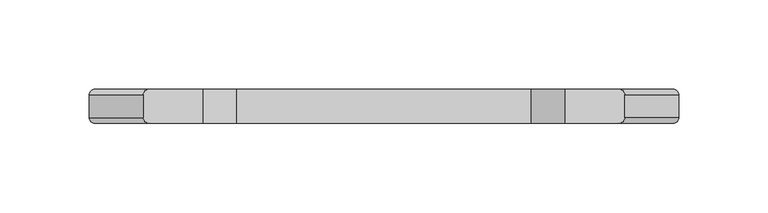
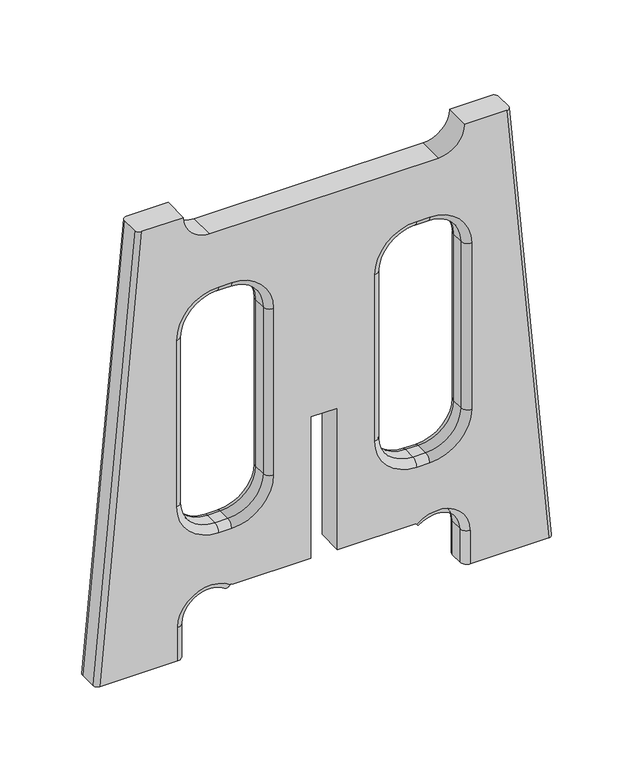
"""IFC4 building model written with IfcOpenShell, lengths in millimetres: furniture geometry, SSL-Childcraft_Outdoor-Stool : 2161356."""

from ifc_helpers import new_model, si_unit, point, frame, origin, place, context, project, spatial, polyline, circle_curve, ellipse_curve, trimmed, source, transform, mapped, element, save
from ifc_brep_helpers import plane_surface, cylinder_surface, revolved_surface, extruded_surface, spline_surface, advanced_brep


def furniture_1be7e667(model_context):
    return source(origin(), model_context, "Body", "AdvancedBrep", [
        advanced_brep(
        [(-101.5873, 4.7625, 117.475), (-76.2, 4.7625, 92.0877), (-76.2, 9.525, 87.3252), (-106.3498, 9.525, 117.475), (-101.5873, -4.7625, 117.475), (-76.2, -4.7625, 92.0877), (-106.3498, -9.525, 117.475), (-76.2, -9.525, 87.3252), (-106.3498, 9.525, 244.4623), (-101.5873, 4.7625, 244.4623), (-101.5873, -4.7625, 244.4623), (-106.3498, -9.525, 244.4623), (-76.1873, 9.525, 274.6248), (-76.1873, 4.7625, 269.8623), (-76.1873, -4.7625, 269.8623), (-76.1873, -9.525, 274.6248), (-66.675, 9.525, 274.6248), (-66.675, 4.7625, 269.8623), (-66.675, -4.7625, 269.8623), (-66.675, -9.525, 274.6248), (-36.5252, 9.525, 244.475), (-41.2877, 4.7625, 244.475), (-41.2877, -4.7625, 244.475), (-36.5252, -9.525, 244.475), (-36.5252, 9.525, 117.475), (-41.2877, 4.7625, 117.475), (-41.2877, -4.7625, 117.475), (-36.5252, -9.525, 117.475), (-66.675, 9.525, 87.3252), (-66.675, 4.7625, 92.0877), (-66.675, -4.7625, 92.0877), (-66.675, -9.525, 87.3252), (100.79355, -4.7625, 0.0), (105.55605, -9.525, 0.0), (105.55605, -9.525, 25.4), (100.79355, -4.7625, 25.4), (100.79355, 4.7625, 0.0), (100.79355, 4.7625, 25.4), (105.55605, 9.525, 0.0), (105.55605, 9.525, 25.4), (66.675, -9.525, 87.3252), (66.675, -4.7625, 92.0877), (41.2877, -4.7625, 117.475), (36.5252, -9.525, 117.475), (41.2877, 4.7625, 117.475), (66.675, 4.7625, 92.0877), (66.675, 9.525, 87.3252), (36.5252, 9.525, 117.475), (41.2877, -4.7625, 244.475), (36.5252, -9.525, 244.475), (36.5252, 9.525, 244.475), (41.2877, 4.7625, 244.475), (66.675, -4.7625, 269.8623), (66.675, -9.525, 274.6248), (66.675, 9.525, 274.6248), (66.675, 4.7625, 269.8623), (76.1873, -4.7625, 269.8623), (76.1873, -9.525, 274.6248), (76.1873, 9.525, 274.6248), (76.1873, 4.7625, 269.8623), (101.5873, -4.7625, 244.4623), (106.3498, -9.525, 244.4623), (106.3498, 9.525, 244.4623), (101.5873, 4.7625, 244.4623), (101.5873, -4.7625, 117.475), (106.3498, -9.525, 117.475), (106.3498, 9.525, 117.475), (101.5873, 4.7625, 117.475), (76.2, -4.7625, 92.0877), (76.2, -9.525, 87.3252), (76.2, 9.525, 87.3252), (76.2, 4.7625, 92.0877), (-67.2065722, -9.525, 45.24375), (-67.6759166, -9.525, 44.603629), (-70.4994928, -4.7498, 40.7526613), (-70.4994928, 4.7498, 40.7526613), (-67.6759166, 9.525, 44.603629), (-67.2065722, 9.525, 45.24375), (-105.56875, -9.525, 25.4), (-100.79355, -4.7498, 25.4), (-100.79355, 4.7498, 25.4), (-105.56875, 9.525, 25.4), (-105.56875, -9.525, 0.0), (-100.79355, -4.7498, 0.0), (-100.79355, 4.7498, 0.0), (-105.56875, 9.525, 0.0), (-131.7625, 9.525, 336.55), (-134.9375, 6.35, 336.55), (-134.9375, -6.35, 336.55), (-131.7625, -9.525, 336.55), (-101.6, -9.525, 336.55), (-101.6, 9.525, 336.55), (-161.925, -9.525, 0.0), (-165.1, -6.35, 0.0), (-165.1, 6.3524937, 0.0), (-161.9274937, 9.525, 0.0), (-82.55, 9.525, 317.5), (82.55, 9.525, 317.5), (101.6, 9.525, 336.55), (131.7625, 9.525, 336.55), (161.925, 9.525, 0.0), (66.692192, 9.525, 43.8256516), (66.1817504, 9.525, 44.45), (9.525, 9.525, 44.45), (9.525, 9.525, 152.4), (-9.525, 9.525, 152.4), (-9.525, 9.525, 44.45), (-66.1817504, 9.525, 44.45), (-66.1817504, -9.525, 44.45), (-9.525, -9.525, 44.45), (-9.525, -9.525, 152.4), (9.525, -9.525, 152.4), (9.525, -9.525, 44.45), (66.1817504, -9.525, 44.45), (66.692192, -9.525, 43.8256516), (161.9274937, -9.525, 0.0), (131.7625, -9.525, 336.55), (101.6, -9.525, 336.55), (82.55, -9.525, 317.5), (-82.55, -9.525, 317.5), (165.1, 6.35, 0.0), (165.1, -6.3524937, 0.0), (134.9375, -6.35, 336.55), (134.9375, 6.35, 336.55), (69.7066113, 4.7625, 40.1385548), (69.7066113, -4.7625, 40.1385548)],
        [
            (0, 1, circle_curve(frame((-76.2, 4.7625, 117.475), z_axis=(0.0, -1.0, 0.0), x_axis=(0.0, 0.0, -1.0)), 25.3873)),
            (1, 2, circle_curve(frame((-76.2, 4.7625, 87.3252), z_axis=(-1.0, 0.0, 0.0), x_axis=(0.0, 0.0, -1.0)), 4.7625)),
            (2, 3, circle_curve(frame((-76.2, 9.525, 117.475), z_axis=(0.0, 1.0, 0.0), x_axis=(0.0, 0.0, -1.0)), 30.1498)),
            (3, 0, circle_curve(frame((-106.3498, 4.7625, 117.475), z_axis=(0.0, 0.0, -1.0), x_axis=(-1.0, 0.0, 0.0)), 4.7625)),
            (0, 4),
            (4, 5, circle_curve(frame((-76.2, -4.7625, 117.475), z_axis=(0.0, -1.0, 0.0), x_axis=(0.0, 0.0, -1.0)), 25.3873)),
            (5, 1),
            (4, 6, circle_curve(frame((-106.3498, -4.7625, 117.475), z_axis=(0.0, 0.0, -1.0), x_axis=(-1.0, 0.0, 0.0)), 4.7625)),
            (6, 7, circle_curve(frame((-76.2, -9.525, 117.475), z_axis=(0.0, -1.0, 0.0), x_axis=(0.0, 0.0, -1.0)), 30.1498)),
            (7, 5, circle_curve(frame((-76.2, -4.7625, 87.3252), z_axis=(-1.0, 0.0, 0.0), x_axis=(0.0, 0.0, -1.0)), 4.7625)),
            (3, 8),
            (8, 9, circle_curve(frame((-106.3498, 4.7625, 244.4623), z_axis=(0.0, 0.0, -1.0), x_axis=(-1.0, 0.0, 0.0)), 4.7625)),
            (9, 0),
            (9, 10),
            (10, 4),
            (10, 11, circle_curve(frame((-106.3498, -4.7625, 244.4623), z_axis=(0.0, 0.0, -1.0), x_axis=(-1.0, 0.0, 0.0)), 4.7625)),
            (11, 6),
            (8, 12, circle_curve(frame((-76.1873, 9.525, 244.4623), z_axis=(0.0, 1.0, 0.0), x_axis=(-1.0, 0.0, 0.0)), 30.1625)),
            (12, 13, circle_curve(frame((-76.1873, 4.7625, 274.6248), z_axis=(-1.0, 0.0, 0.0), x_axis=(0.0, 0.0, 1.0)), 4.7625)),
            (13, 9, circle_curve(frame((-76.1873, 4.7625, 244.4623), z_axis=(0.0, -1.0, 0.0), x_axis=(-1.0, 0.0, 0.0)), 25.4)),
            (13, 14),
            (14, 10, circle_curve(frame((-76.1873, -4.7625, 244.4623), z_axis=(0.0, -1.0, 0.0), x_axis=(-1.0, 0.0, 0.0)), 25.4)),
            (14, 15, circle_curve(frame((-76.1873, -4.7625, 274.6248), z_axis=(-1.0, 0.0, 0.0), x_axis=(0.0, 0.0, 1.0)), 4.7625)),
            (15, 11, circle_curve(frame((-76.1873, -9.525, 244.4623), z_axis=(0.0, -1.0, 0.0), x_axis=(-1.0, 0.0, 0.0)), 30.1625)),
            (12, 16),
            (16, 17, circle_curve(frame((-66.675, 4.7625, 274.6248), z_axis=(-1.0, 0.0, 0.0), x_axis=(0.0, 0.0, 1.0)), 4.7625)),
            (17, 13),
            (17, 18),
            (18, 14),
            (18, 19, circle_curve(frame((-66.675, -4.7625, 274.6248), z_axis=(-1.0, 0.0, 0.0), x_axis=(0.0, 0.0, 1.0)), 4.7625)),
            (19, 15),
            (16, 20, circle_curve(frame((-66.675, 9.525, 244.475), z_axis=(0.0, 1.0, 0.0), x_axis=(0.0, 0.0, 1.0)), 30.1498)),
            (20, 21, circle_curve(frame((-36.5252, 4.7625, 244.475), z_axis=(0.0, 0.0, 1.0), x_axis=(1.0, 0.0, 0.0)), 4.7625)),
            (21, 17, circle_curve(frame((-66.675, 4.7625, 244.475), z_axis=(0.0, -1.0, 0.0), x_axis=(0.0, 0.0, 1.0)), 25.3873)),
            (21, 22),
            (22, 18, circle_curve(frame((-66.675, -4.7625, 244.475), z_axis=(0.0, -1.0, 0.0), x_axis=(0.0, 0.0, 1.0)), 25.3873)),
            (22, 23, circle_curve(frame((-36.5252, -4.7625, 244.475), z_axis=(0.0, 0.0, 1.0), x_axis=(1.0, 0.0, 0.0)), 4.7625)),
            (23, 19, circle_curve(frame((-66.675, -9.525, 244.475), z_axis=(0.0, -1.0, 0.0), x_axis=(0.0, 0.0, 1.0)), 30.1498)),
            (20, 24),
            (24, 25, circle_curve(frame((-36.5252, 4.7625, 117.475), z_axis=(0.0, 0.0, 1.0), x_axis=(1.0, 0.0, 0.0)), 4.7625)),
            (25, 21),
            (25, 26),
            (26, 22),
            (26, 27, circle_curve(frame((-36.5252, -4.7625, 117.475), z_axis=(0.0, 0.0, 1.0), x_axis=(1.0, 0.0, 0.0)), 4.7625)),
            (27, 23),
            (24, 28, circle_curve(frame((-66.675, 9.525, 117.475), z_axis=(0.0, 1.0, 0.0), x_axis=(1.0, 0.0, 0.0)), 30.1498)),
            (28, 29, circle_curve(frame((-66.675, 4.7625, 87.3252), z_axis=(1.0, 0.0, 0.0), x_axis=(0.0, 0.0, -1.0)), 4.7625)),
            (29, 25, circle_curve(frame((-66.675, 4.7625, 117.475), z_axis=(0.0, -1.0, 0.0), x_axis=(1.0, 0.0, 0.0)), 25.3873)),
            (29, 30),
            (30, 26, circle_curve(frame((-66.675, -4.7625, 117.475), z_axis=(0.0, -1.0, 0.0), x_axis=(1.0, 0.0, 0.0)), 25.3873)),
            (30, 31, circle_curve(frame((-66.675, -4.7625, 87.3252), z_axis=(1.0, 0.0, 0.0), x_axis=(0.0, 0.0, -1.0)), 4.7625)),
            (31, 27, circle_curve(frame((-66.675, -9.525, 117.475), z_axis=(0.0, -1.0, 0.0), x_axis=(1.0, 0.0, 0.0)), 30.1498)),
            (1, 29),
            (28, 2),
            (5, 30),
            (7, 31),
            (32, 33, circle_curve(frame((105.55605, -4.7625, 0.0), z_axis=(0.0, 0.0, 1.0), x_axis=(-1.0, 0.0, 0.0)), 4.7625)),
            (33, 34),
            (34, 35, circle_curve(frame((105.55605, -4.7625, 25.4), z_axis=(0.0, 0.0, -1.0), x_axis=(-1.0, 0.0, 0.0)), 4.7625)),
            (35, 32),
            (36, 32),
            (35, 37),
            (37, 36),
            (38, 36, circle_curve(frame((105.55605, 4.7625, 0.0), z_axis=(0.0, 0.0, 1.0), x_axis=(-1.0, 0.0, 0.0)), 4.7625)),
            (37, 39, circle_curve(frame((105.55605, 4.7625, 25.4), z_axis=(0.0, 0.0, -1.0), x_axis=(-1.0, 0.0, 0.0)), 4.7625)),
            (39, 38),
            (40, 41, circle_curve(frame((66.675, -4.7625, 87.3252), z_axis=(-1.0, 0.0, 0.0), x_axis=(0.0, 0.0, -1.0)), 4.7625)),
            (41, 42, circle_curve(frame((66.675, -4.7625, 117.475), z_axis=(0.0, 1.0, 0.0), x_axis=(0.0, 0.0, -1.0)), 25.3873)),
            (42, 43, circle_curve(frame((36.5252, -4.7625, 117.475), z_axis=(0.0, 0.0, -1.0), x_axis=(-1.0, 0.0, 0.0)), 4.7625)),
            (43, 40, circle_curve(frame((66.675, -9.525, 117.475), z_axis=(0.0, -1.0, 0.0), x_axis=(0.0, 0.0, -1.0)), 30.1498)),
            (44, 45, circle_curve(frame((66.675, 4.7625, 117.475), z_axis=(0.0, -1.0, 0.0), x_axis=(0.0, 0.0, -1.0)), 25.3873)),
            (45, 46, circle_curve(frame((66.675, 4.7625, 87.3252), z_axis=(-1.0, 0.0, 0.0), x_axis=(0.0, 0.0, -1.0)), 4.7625)),
            (46, 47, circle_curve(frame((66.675, 9.525, 117.475), z_axis=(0.0, 1.0, 0.0), x_axis=(0.0, 0.0, -1.0)), 30.1498)),
            (47, 44, circle_curve(frame((36.5252, 4.7625, 117.475), z_axis=(0.0, 0.0, -1.0), x_axis=(-1.0, 0.0, 0.0)), 4.7625)),
            (41, 45),
            (44, 42),
            (42, 48),
            (48, 49, circle_curve(frame((36.5252, -4.7625, 244.475), z_axis=(0.0, 0.0, -1.0), x_axis=(-1.0, 0.0, 0.0)), 4.7625)),
            (49, 43),
            (47, 50),
            (50, 51, circle_curve(frame((36.5252, 4.7625, 244.475), z_axis=(0.0, 0.0, -1.0), x_axis=(-1.0, 0.0, 0.0)), 4.7625)),
            (51, 44),
            (51, 48),
            (48, 52, circle_curve(frame((66.675, -4.7625, 244.475), z_axis=(0.0, 1.0, 0.0), x_axis=(-1.0, 0.0, 0.0)), 25.3873)),
            (52, 53, circle_curve(frame((66.675, -4.7625, 274.6248), z_axis=(-1.0, 0.0, 0.0), x_axis=(0.0, 0.0, 1.0)), 4.7625)),
            (53, 49, circle_curve(frame((66.675, -9.525, 244.475), z_axis=(0.0, -1.0, 0.0), x_axis=(-1.0, 0.0, 0.0)), 30.1498)),
            (50, 54, circle_curve(frame((66.675, 9.525, 244.475), z_axis=(0.0, 1.0, 0.0), x_axis=(-1.0, 0.0, 0.0)), 30.1498)),
            (54, 55, circle_curve(frame((66.675, 4.7625, 274.6248), z_axis=(-1.0, 0.0, 0.0), x_axis=(0.0, 0.0, 1.0)), 4.7625)),
            (55, 51, circle_curve(frame((66.675, 4.7625, 244.475), z_axis=(0.0, -1.0, 0.0), x_axis=(-1.0, 0.0, 0.0)), 25.3873)),
            (55, 52),
            (52, 56),
            (56, 57, circle_curve(frame((76.1873, -4.7625, 274.6248), z_axis=(-1.0, 0.0, 0.0), x_axis=(0.0, 0.0, 1.0)), 4.7625)),
            (57, 53),
            (54, 58),
            (58, 59, circle_curve(frame((76.1873, 4.7625, 274.6248), z_axis=(-1.0, 0.0, 0.0), x_axis=(0.0, 0.0, 1.0)), 4.7625)),
            (59, 55),
            (59, 56),
            (56, 60, circle_curve(frame((76.1873, -4.7625, 244.4623), z_axis=(0.0, 1.0, 0.0), x_axis=(0.0, 0.0, 1.0)), 25.4)),
            (60, 61, circle_curve(frame((106.3498, -4.7625, 244.4623), z_axis=(0.0, 0.0, 1.0), x_axis=(1.0, 0.0, 0.0)), 4.7625)),
            (61, 57, circle_curve(frame((76.1873, -9.525, 244.4623), z_axis=(0.0, -1.0, 0.0), x_axis=(0.0, 0.0, 1.0)), 30.1625)),
            (58, 62, circle_curve(frame((76.1873, 9.525, 244.4623), z_axis=(0.0, 1.0, 0.0), x_axis=(0.0, 0.0, 1.0)), 30.1625)),
            (62, 63, circle_curve(frame((106.3498, 4.7625, 244.4623), z_axis=(0.0, 0.0, 1.0), x_axis=(1.0, 0.0, 0.0)), 4.7625)),
            (63, 59, circle_curve(frame((76.1873, 4.7625, 244.4623), z_axis=(0.0, -1.0, 0.0), x_axis=(0.0, 0.0, 1.0)), 25.4)),
            (63, 60),
            (60, 64),
            (64, 65, circle_curve(frame((106.3498, -4.7625, 117.475), z_axis=(0.0, 0.0, 1.0), x_axis=(1.0, 0.0, 0.0)), 4.7625)),
            (65, 61),
            (62, 66),
            (66, 67, circle_curve(frame((106.3498, 4.7625, 117.475), z_axis=(0.0, 0.0, 1.0), x_axis=(1.0, 0.0, 0.0)), 4.7625)),
            (67, 63),
            (67, 64),
            (64, 68, circle_curve(frame((76.2, -4.7625, 117.475), z_axis=(0.0, 1.0, 0.0), x_axis=(1.0, 0.0, 0.0)), 25.3873)),
            (68, 69, circle_curve(frame((76.2, -4.7625, 87.3252), z_axis=(1.0, 0.0, 0.0), x_axis=(0.0, 0.0, -1.0)), 4.7625)),
            (69, 65, circle_curve(frame((76.2, -9.525, 117.475), z_axis=(0.0, -1.0, 0.0), x_axis=(1.0, 0.0, 0.0)), 30.1498)),
            (66, 70, circle_curve(frame((76.2, 9.525, 117.475), z_axis=(0.0, 1.0, 0.0), x_axis=(1.0, 0.0, 0.0)), 30.1498)),
            (70, 71, circle_curve(frame((76.2, 4.7625, 87.3252), z_axis=(1.0, 0.0, 0.0), x_axis=(0.0, 0.0, -1.0)), 4.7625)),
            (71, 67, circle_curve(frame((76.2, 4.7625, 117.475), z_axis=(0.0, -1.0, 0.0), x_axis=(1.0, 0.0, 0.0)), 25.3873)),
            (71, 68),
            (40, 69),
            (68, 41),
            (45, 71),
            (70, 46),
            (72, 73),
            (73, 74, circle_curve(frame((-67.6759166, -4.7498, 44.603629), z_axis=(0.8064516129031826, 0.0, -0.5913000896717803), x_axis=(0.0, -1.0, 0.0)), 4.7752)),
            (74, 75),
            (75, 76, circle_curve(frame((-67.6759166, 4.7498, 44.603629), z_axis=(0.8064516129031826, 0.0, -0.5913000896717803), x_axis=(0.0, -1.0, 0.0)), 4.7752)),
            (76, 77),
            (77, 72),
            (73, 78, circle_curve(frame((-81.75625, -9.525, 25.4), z_axis=(0.0, -1.0, 0.0), x_axis=(0.5913000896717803, 0.0, 0.8064516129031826)), 23.8125)),
            (78, 79, circle_curve(frame((-105.56875, -4.7498, 25.4), z_axis=(0.0, 0.0, 1.0), x_axis=(0.0, -1.0, 0.0)), 4.7752)),
            (79, 74, circle_curve(frame((-81.75625, -4.7498, 25.4), z_axis=(0.0, 1.0, 0.0), x_axis=(0.5913000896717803, 0.0, 0.8064516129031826)), 19.0373)),
            (79, 80),
            (80, 75, circle_curve(frame((-81.75625, 4.7498, 25.4), z_axis=(0.0, 1.0, 0.0), x_axis=(0.5913000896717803, 0.0, 0.8064516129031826)), 19.0373)),
            (80, 81, circle_curve(frame((-105.56875, 4.7498, 25.4), z_axis=(0.0, 0.0, 1.0), x_axis=(0.0, -1.0, 0.0)), 4.7752)),
            (81, 76, circle_curve(frame((-81.75625, 9.525, 25.4), z_axis=(0.0, 1.0, 0.0), x_axis=(0.5913000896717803, 0.0, 0.8064516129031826)), 23.8125)),
            (82, 83, circle_curve(frame((-105.56875, -4.7498, 0.0), z_axis=(0.0, 0.0, 1.0), x_axis=(0.0, -1.0, 0.0)), 4.7752)),
            (83, 79),
            (78, 82),
            (83, 84),
            (84, 80),
            (84, 85, circle_curve(frame((-105.56875, 4.7498, 0.0), z_axis=(0.0, 0.0, 1.0), x_axis=(0.0, -1.0, 0.0)), 4.7752)),
            (85, 81),
            (86, 87, circle_curve(frame((-131.7625, 6.35, 336.55), z_axis=(0.0, 0.0, 1.0), x_axis=(0.0, 1.0, 0.0)), 3.175)),
            (87, 88),
            (88, 89, circle_curve(frame((-131.7625, -6.35, 336.55), z_axis=(0.0, 0.0, 1.0), x_axis=(0.0, 1.0, 0.0)), 3.175)),
            (89, 90),
            (90, 91),
            (91, 86),
            (92, 93, circle_curve(frame((-161.925, -6.35, 0.0), z_axis=(0.0, 0.0, -1.0), x_axis=(0.0, 1.0, 0.0)), 3.175)),
            (93, 94),
            (94, 95, circle_curve(frame((-161.9274937, 6.3524937, 0.0), z_axis=(0.0, 0.0, -1.0), x_axis=(0.0, 1.0, 0.0)), 3.1725063)),
            (95, 85),
            (82, 92),
            (95, 86),
            (91, 96, circle_curve(frame((-82.55, 9.525, 336.55), z_axis=(0.0, -1.0, 0.0), x_axis=(1.0, 0.0, 0.0)), 19.05)),
            (96, 97),
            (97, 98, circle_curve(frame((82.55, 9.525, 336.55), z_axis=(0.0, -1.0, 0.0), x_axis=(1.0, 0.0, 0.0)), 19.05)),
            (98, 99),
            (99, 100),
            (100, 38),
            (39, 101, circle_curve(frame((81.75625, 9.525, 25.4), z_axis=(0.0, -1.0, 0.0), x_axis=(1.0, 0.0, 0.0)), 23.7998)),
            (101, 102),
            (102, 103),
            (103, 104),
            (104, 105),
            (105, 106),
            (106, 107),
            (107, 77, circle_curve(frame((-81.75625, 9.525, 25.4), z_axis=(0.0, -1.0, 0.0), x_axis=(1.0, 0.0, 0.0)), 24.60625)),
            (94, 87),
            (93, 88),
            (92, 89),
            (72, 108, circle_curve(frame((-81.75625, -9.525, 25.4), z_axis=(0.0, 1.0, 0.0), x_axis=(1.0, 0.0, 0.0)), 24.60625)),
            (108, 109),
            (109, 110),
            (110, 111),
            (111, 112),
            (112, 113),
            (113, 114),
            (114, 34, circle_curve(frame((81.75625, -9.525, 25.4), z_axis=(0.0, 1.0, 0.0), x_axis=(1.0, 0.0, 0.0)), 23.7998)),
            (33, 115),
            (115, 116),
            (116, 117),
            (117, 118, circle_curve(frame((82.55, -9.525, 336.55), z_axis=(0.0, 1.0, 0.0), x_axis=(1.0, 0.0, 0.0)), 19.05)),
            (118, 119),
            (119, 90, circle_curve(frame((-82.55, -9.525, 336.55), z_axis=(0.0, 1.0, 0.0), x_axis=(1.0, 0.0, 0.0)), 19.05)),
            (107, 108),
            (106, 109),
            (105, 110),
            (104, 111),
            (103, 112),
            (102, 113),
            (100, 120, circle_curve(frame((161.925, 6.35, 0.0), z_axis=(0.0, 0.0, -1.0), x_axis=(0.0, -1.0, 0.0)), 3.175)),
            (120, 121),
            (121, 115, circle_curve(frame((161.9274937, -6.3524937, 0.0), z_axis=(0.0, 0.0, -1.0), x_axis=(0.0, -1.0, 0.0)), 3.1725063)),
            (98, 117),
            (116, 122, circle_curve(frame((131.7625, -6.35, 336.55), z_axis=(0.0, 0.0, 1.0), x_axis=(0.0, -1.0, 0.0)), 3.175)),
            (122, 123),
            (123, 99, circle_curve(frame((131.7625, 6.35, 336.55), z_axis=(0.0, 0.0, 1.0), x_axis=(0.0, -1.0, 0.0)), 3.175)),
            (97, 118),
            (96, 119),
            (101, 124, circle_curve(frame((66.692192, 4.7625, 43.8256516), z_axis=(-0.774193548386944, 0.0, -0.6329489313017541), x_axis=(0.6329489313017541, 0.0, -0.774193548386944)), 4.7625)),
            (124, 125),
            (125, 114, circle_curve(frame((66.692192, -4.7625, 43.8256516), z_axis=(-0.774193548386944, 0.0, -0.6329489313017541), x_axis=(0.6329489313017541, 0.0, -0.774193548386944)), 4.7625)),
            (125, 35, circle_curve(frame((81.75625, -4.7625, 25.4), z_axis=(0.0, 1.0, 0.0), x_axis=(1.0, 0.0, 0.0)), 19.0373)),
            (124, 37, circle_curve(frame((81.75625, 4.7625, 25.4), z_axis=(0.0, 1.0, 0.0), x_axis=(1.0, 0.0, 0.0)), 19.0373)),
            (121, 122),
            (120, 123),
        ],
        [
            revolved_surface(trimmed(ellipse_curve(frame((-76.2, 4.7625, 87.3252), z_axis=(1.0, 0.0, 0.0), x_axis=(0.0, 0.0, -1.0)), 4.7625, 4.7625), [point((-76.2, 9.525, 87.3252))], [point((-76.2, 4.7625, 92.0877))], True, "CARTESIAN"), (-76.2, 0.0, 117.475), (0.0, 1.0, 0.0)),
            revolved_surface(polyline([(-76.2, 4.7625, 92.0877), (-76.2, -4.7625, 92.0877)]), (-76.2, 0.0, 117.475), (0.0, 1.0, 0.0)),
            revolved_surface(trimmed(ellipse_curve(frame((-76.2, -4.7625, 87.3252), z_axis=(1.0, 0.0, 0.0), x_axis=(0.0, 0.0, -1.0)), 4.7625, 4.7625), [point((-76.2, -4.7625, 92.0877))], [point((-76.2, -9.525, 87.3252))], True, "CARTESIAN"), (-76.2, 0.0, 117.475), (0.0, 1.0, 0.0)),
            cylinder_surface(frame((-106.3498, 4.7625, 117.475), z_axis=(0.0, 0.0, -1.0), x_axis=(-1.0, 0.0, 0.0)), 4.7625),
            plane_surface(frame((-101.5873, 4.7625, 117.475), z_axis=(1.0, 0.0, 0.0), x_axis=(0.0, 0.0, 1.0))),
            cylinder_surface(frame((-106.3498, -4.7625, 117.475), z_axis=(0.0, 0.0, -1.0), x_axis=(-1.0, 0.0, 0.0)), 4.7625),
            revolved_surface(trimmed(ellipse_curve(frame((-106.3498, 4.7625, 244.4623), z_axis=(0.0, 0.0, -1.0), x_axis=(-1.0, 0.0, 0.0)), 4.7625, 4.7625), [point((-106.3498, 9.525, 244.4623))], [point((-101.5873, 4.7625, 244.4623))], True, "CARTESIAN"), (-76.1873, 0.0, 244.4623), (0.0, 1.0, 0.0)),
            revolved_surface(polyline([(-101.5873, 4.7625, 244.4623), (-101.5873, -4.7625, 244.4623)]), (-76.1873, 0.0, 244.4623), (0.0, 1.0, 0.0)),
            revolved_surface(trimmed(ellipse_curve(frame((-106.3498, -4.7625, 244.4623), z_axis=(0.0, 0.0, -1.0), x_axis=(-1.0, 0.0, 0.0)), 4.7625, 4.7625), [point((-101.5873, -4.7625, 244.4623))], [point((-106.3498, -9.525, 244.4623))], True, "CARTESIAN"), (-76.1873, 0.0, 244.4623), (0.0, 1.0, 0.0)),
            cylinder_surface(frame((-76.1873, 4.7625, 274.6248), z_axis=(-1.0, 0.0, 0.0), x_axis=(0.0, 0.0, 1.0)), 4.7625),
            plane_surface(frame((-76.1873, 4.7625, 269.8623), z_axis=(0.0, 0.0, -1.0), x_axis=(1.0, 0.0, 0.0))),
            cylinder_surface(frame((-76.1873, -4.7625, 274.6248), z_axis=(-1.0, 0.0, 0.0), x_axis=(0.0, 0.0, 1.0)), 4.7625),
            revolved_surface(trimmed(ellipse_curve(frame((-66.675, 4.7625, 274.6248), z_axis=(-1.0, 0.0, 0.0), x_axis=(0.0, 0.0, 1.0)), 4.7625, 4.7625), [point((-66.675, 9.525, 274.6248))], [point((-66.675, 4.7625, 269.8623))], True, "CARTESIAN"), (-66.675, 0.0, 244.475), (0.0, 1.0, 0.0)),
            revolved_surface(polyline([(-66.675, 4.7625, 269.8623), (-66.675, -4.7625, 269.8623)]), (-66.675, 0.0, 244.475), (0.0, 1.0, 0.0)),
            revolved_surface(trimmed(ellipse_curve(frame((-66.675, -4.7625, 274.6248), z_axis=(-1.0, 0.0, 0.0), x_axis=(0.0, 0.0, 1.0)), 4.7625, 4.7625), [point((-66.675, -4.7625, 269.8623))], [point((-66.675, -9.525, 274.6248))], True, "CARTESIAN"), (-66.675, 0.0, 244.475), (0.0, 1.0, 0.0)),
            cylinder_surface(frame((-36.5252, 4.7625, 244.475), z_axis=(0.0, 0.0, 1.0), x_axis=(1.0, 0.0, 0.0)), 4.7625),
            plane_surface(frame((-41.2877, 4.7625, 244.475), z_axis=(-1.0, 0.0, 0.0), x_axis=(0.0, 0.0, -1.0))),
            cylinder_surface(frame((-36.5252, -4.7625, 244.475), z_axis=(0.0, 0.0, 1.0), x_axis=(1.0, 0.0, 0.0)), 4.7625),
            revolved_surface(trimmed(ellipse_curve(frame((-36.5252, 4.7625, 117.475), z_axis=(0.0, 0.0, 1.0), x_axis=(1.0, 0.0, 0.0)), 4.7625, 4.7625), [point((-36.5252, 9.525, 117.475))], [point((-41.2877, 4.7625, 117.475))], True, "CARTESIAN"), (-66.675, 0.0, 117.475), (0.0, 1.0, 0.0)),
            revolved_surface(polyline([(-41.2877, 4.7625, 117.475), (-41.2877, -4.7625, 117.475)]), (-66.675, 0.0, 117.475), (0.0, 1.0, 0.0)),
            revolved_surface(trimmed(ellipse_curve(frame((-36.5252, -4.7625, 117.475), z_axis=(0.0, 0.0, 1.0), x_axis=(1.0, 0.0, 0.0)), 4.7625, 4.7625), [point((-41.2877, -4.7625, 117.475))], [point((-36.5252, -9.525, 117.475))], True, "CARTESIAN"), (-66.675, 0.0, 117.475), (0.0, 1.0, 0.0)),
            cylinder_surface(frame((-66.675, 4.7625, 87.3252), z_axis=(1.0, 0.0, 0.0), x_axis=(0.0, 0.0, -1.0)), 4.7625),
            plane_surface(frame((-66.675, 4.7625, 92.0877), z_axis=(0.0, 0.0, 1.0), x_axis=(-1.0, 0.0, 0.0))),
            cylinder_surface(frame((-66.675, -4.7625, 87.3252), z_axis=(1.0, 0.0, 0.0), x_axis=(0.0, 0.0, -1.0)), 4.7625),
            cylinder_surface(frame((105.55605, -4.7625, 0.0), z_axis=(0.0, 0.0, -1.0), x_axis=(-1.0, 0.0, 0.0)), 4.7625),
            plane_surface(frame((100.79355, -4.7625, 0.0), z_axis=(-1.0, 0.0, 0.0), x_axis=(0.0, 0.0, 1.0))),
            cylinder_surface(frame((105.55605, 4.7625, 0.0), z_axis=(0.0, 0.0, -1.0), x_axis=(-1.0, 0.0, 0.0)), 4.7625),
            revolved_surface(trimmed(ellipse_curve(frame((66.675, -4.7625, 87.3252), z_axis=(1.0, 0.0, 0.0), x_axis=(0.0, 0.0, -1.0)), 4.7625, 4.7625), [point((66.675, -4.7625, 92.0877))], [point((66.675, -9.525, 87.3252))], True, "CARTESIAN"), (66.675, 0.0, 117.475), (0.0, 1.0, 0.0)),
            revolved_surface(trimmed(ellipse_curve(frame((66.675, 4.7625, 87.3252), z_axis=(1.0, 0.0, 0.0), x_axis=(0.0, 0.0, -1.0)), 4.7625, 4.7625), [point((66.675, 9.525, 87.3252))], [point((66.675, 4.7625, 92.0877))], True, "CARTESIAN"), (66.675, 0.0, 117.475), (0.0, 1.0, 0.0)),
            revolved_surface(polyline([(66.675, 4.7625, 92.0877), (66.675, -4.7625, 92.0877)]), (66.675, 0.0, 117.475), (0.0, 1.0, 0.0)),
            cylinder_surface(frame((36.5252, -4.7625, 117.475), z_axis=(0.0, 0.0, -1.0), x_axis=(-1.0, 0.0, 0.0)), 4.7625),
            cylinder_surface(frame((36.5252, 4.7625, 117.475), z_axis=(0.0, 0.0, -1.0), x_axis=(-1.0, 0.0, 0.0)), 4.7625),
            plane_surface(frame((41.2877, 4.7625, 117.475), z_axis=(1.0, 0.0, 0.0), x_axis=(0.0, 0.0, 1.0))),
            revolved_surface(trimmed(ellipse_curve(frame((36.5252, -4.7625, 244.475), z_axis=(0.0, 0.0, -1.0), x_axis=(-1.0, 0.0, 0.0)), 4.7625, 4.7625), [point((41.2877, -4.7625, 244.475))], [point((36.5252, -9.525, 244.475))], True, "CARTESIAN"), (66.675, 0.0, 244.475), (0.0, 1.0, 0.0)),
            revolved_surface(trimmed(ellipse_curve(frame((36.5252, 4.7625, 244.475), z_axis=(0.0, 0.0, -1.0), x_axis=(-1.0, 0.0, 0.0)), 4.7625, 4.7625), [point((36.5252, 9.525, 244.475))], [point((41.2877, 4.7625, 244.475))], True, "CARTESIAN"), (66.675, 0.0, 244.475), (0.0, 1.0, 0.0)),
            revolved_surface(polyline([(41.2877, 4.7625, 244.475), (41.2877, -4.7625, 244.475)]), (66.675, 0.0, 244.475), (0.0, 1.0, 0.0)),
            cylinder_surface(frame((66.675, -4.7625, 274.6248), z_axis=(-1.0, 0.0, 0.0), x_axis=(0.0, 0.0, 1.0)), 4.7625),
            cylinder_surface(frame((66.675, 4.7625, 274.6248), z_axis=(-1.0, 0.0, 0.0), x_axis=(0.0, 0.0, 1.0)), 4.7625),
            plane_surface(frame((66.675, 4.7625, 269.8623), z_axis=(0.0, 0.0, -1.0), x_axis=(1.0, 0.0, 0.0))),
            revolved_surface(trimmed(ellipse_curve(frame((76.1873, -4.7625, 274.6248), z_axis=(-1.0, 0.0, 0.0), x_axis=(0.0, 0.0, 1.0)), 4.7625, 4.7625), [point((76.1873, -4.7625, 269.8623))], [point((76.1873, -9.525, 274.6248))], True, "CARTESIAN"), (76.1873, 0.0, 244.4623), (0.0, 1.0, 0.0)),
            revolved_surface(trimmed(ellipse_curve(frame((76.1873, 4.7625, 274.6248), z_axis=(-1.0, 0.0, 0.0), x_axis=(0.0, 0.0, 1.0)), 4.7625, 4.7625), [point((76.1873, 9.525, 274.6248))], [point((76.1873, 4.7625, 269.8623))], True, "CARTESIAN"), (76.1873, 0.0, 244.4623), (0.0, 1.0, 0.0)),
            revolved_surface(polyline([(76.1873, 4.7625, 269.8623), (76.1873, -4.7625, 269.8623)]), (76.1873, 0.0, 244.4623), (0.0, 1.0, 0.0)),
            cylinder_surface(frame((106.3498, -4.7625, 244.4623), z_axis=(0.0, 0.0, 1.0), x_axis=(1.0, 0.0, 0.0)), 4.7625),
            cylinder_surface(frame((106.3498, 4.7625, 244.4623), z_axis=(0.0, 0.0, 1.0), x_axis=(1.0, 0.0, 0.0)), 4.7625),
            plane_surface(frame((101.5873, 4.7625, 244.4623), z_axis=(-1.0, 0.0, 0.0), x_axis=(0.0, 0.0, -1.0))),
            revolved_surface(trimmed(ellipse_curve(frame((106.3498, -4.7625, 117.475), z_axis=(0.0, 0.0, 1.0), x_axis=(1.0, 0.0, 0.0)), 4.7625, 4.7625), [point((101.5873, -4.7625, 117.475))], [point((106.3498, -9.525, 117.475))], True, "CARTESIAN"), (76.2, 0.0, 117.475), (0.0, 1.0, 0.0)),
            revolved_surface(trimmed(ellipse_curve(frame((106.3498, 4.7625, 117.475), z_axis=(0.0, 0.0, 1.0), x_axis=(1.0, 0.0, 0.0)), 4.7625, 4.7625), [point((106.3498, 9.525, 117.475))], [point((101.5873, 4.7625, 117.475))], True, "CARTESIAN"), (76.2, 0.0, 117.475), (0.0, 1.0, 0.0)),
            revolved_surface(polyline([(101.5873, 4.7625, 117.475), (101.5873, -4.7625, 117.475)]), (76.2, 0.0, 117.475), (0.0, 1.0, 0.0)),
            cylinder_surface(frame((76.2, -4.7625, 87.3252), z_axis=(1.0, 0.0, 0.0), x_axis=(0.0, 0.0, -1.0)), 4.7625),
            cylinder_surface(frame((76.2, 4.7625, 87.3252), z_axis=(1.0, 0.0, 0.0), x_axis=(0.0, 0.0, -1.0)), 4.7625),
            plane_surface(frame((76.2, 4.7625, 92.0877), z_axis=(0.0, 0.0, 1.0), x_axis=(-1.0, 0.0, 0.0))),
            plane_surface(frame((-67.2065722, 0.0, 45.24375), z_axis=(0.8064516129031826, 0.0, -0.5913000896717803), x_axis=(0.0, -1.0, 0.0))),
            revolved_surface(trimmed(ellipse_curve(frame((-67.6759166, -4.7498, 44.603629), z_axis=(0.8064516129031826, 0.0, -0.5913000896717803), x_axis=(0.0, -1.0, 0.0)), 4.7752, 4.7752), [point((-67.6759166, -9.525, 44.603629))], [point((-70.4994928, -4.7498, 40.7526613))], True, "CARTESIAN"), (-81.75625, 0.0, 25.4), (0.0, -1.0, 0.0)),
            revolved_surface(polyline([(-70.49949280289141, -4.7498, 40.752661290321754), (-70.49949280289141, 4.7498, 40.752661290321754)]), (-81.75625, 0.0, 25.4), (0.0, -1.0, 0.0)),
            revolved_surface(trimmed(ellipse_curve(frame((-67.6759166, 4.7498, 44.603629), z_axis=(0.8064516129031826, 0.0, -0.5913000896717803), x_axis=(0.0, -1.0, 0.0)), 4.7752, 4.7752), [point((-70.4994928, 4.7498, 40.7526613))], [point((-67.6759166, 9.525, 44.603629))], True, "CARTESIAN"), (-81.75625, 0.0, 25.4), (0.0, -1.0, 0.0)),
            cylinder_surface(frame((-105.56875, -4.7498, 25.4), z_axis=(0.0, 0.0, 1.0), x_axis=(0.0, -1.0, 0.0)), 4.7752),
            plane_surface(frame((-100.79355, -4.7498, 25.4), z_axis=(1.0, 0.0, 0.0), x_axis=(0.0, 0.0, -1.0))),
            cylinder_surface(frame((-105.56875, 4.7498, 25.4), z_axis=(0.0, 0.0, 1.0), x_axis=(0.0, -1.0, 0.0)), 4.7752),
            plane_surface(frame((-132.0270833, 0.0, 336.55), z_axis=(0.0, 0.0, 1.0), x_axis=(-1.0, 0.0, 0.0))),
            plane_surface(frame((-162.189999, 0.0004156, 0.0), z_axis=(0.0, 0.0, -1.0), x_axis=(-1.0, 0.0, 0.0))),
            plane_surface(frame((-160.7356218, 9.525, 0.0), z_axis=(0.0, 1.0, 0.0), x_axis=(-1.0, 0.0, 0.0))),
            spline_surface(2, 1, [[(-161.9274937, 9.525, 0.0), (-131.7625, 9.525, 336.55)], [(-165.10000000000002, 9.52499999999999, 0.0), (-134.9375, 9.52499999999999, 336.55)], [(-165.1, 6.3524937, 0.0), (-134.9375, 6.35, 336.55)]], [3, 3], [2, 2], [0.0, 1.0], [0.0, 1.0], weights=[[1.0, 1.0], [0.7071067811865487, 0.7071067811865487], [1.0, 1.0]]),
            plane_surface(frame((-165.1, 0.0012468, 0.0), z_axis=(-0.9960079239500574, 0.0, 0.0892648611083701), x_axis=(0.0, -1.0, 0.0))),
            extruded_surface(trimmed(circle_curve(frame((-161.925, -6.35, 0.0), z_axis=(0.0, 0.0, 1.0), x_axis=(0.0, 1.0, 0.0)), 3.175), [point((-165.1, -6.35, 0.0))], [point((-161.925, -9.525, 0.0))], True, "CARTESIAN"), (30.162500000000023, 0.0, 336.55), 337.89891817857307),
            plane_surface(frame((-160.734375, -9.525, 0.0), z_axis=(0.0, -1.0, 0.0), x_axis=(1.0, 0.0, 0.0))),
            revolved_surface(polyline([(-57.14999999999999, 9.525, 25.4), (-57.14999999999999, -9.525, 25.4)]), (-81.75625, 9.525, 25.4), (0.0, 1.0, 0.0)),
            plane_surface(frame((-66.1817504, -9.525, 44.45), z_axis=(0.0, 0.0, -1.0), x_axis=(0.0, 1.0, 0.0))),
            plane_surface(frame((-9.525, -9.525, 44.45), z_axis=(1.0, 0.0, 0.0), x_axis=(0.0, 1.0, 0.0))),
            plane_surface(frame((-9.525, -9.525, 152.4), z_axis=(0.0, 0.0, -1.0), x_axis=(0.0, 1.0, 0.0))),
            plane_surface(frame((9.525, -9.525, 152.4), z_axis=(-1.0, 0.0, 0.0), x_axis=(0.0, 1.0, 0.0))),
            plane_surface(frame((9.525, -9.525, 44.45), z_axis=(0.0, 0.0, -1.0), x_axis=(0.0, 1.0, 0.0))),
            plane_surface(frame((106.3625, -9.525, 0.0), z_axis=(0.0, 0.0, -1.0), x_axis=(0.0, 1.0, 0.0))),
            plane_surface(frame((129.38125, -9.525, 336.55), z_axis=(0.0, 0.0, 1.0), x_axis=(0.0, 1.0, 0.0))),
            revolved_surface(polyline([(101.6, 9.525, 336.55), (101.6, -9.525, 336.55)]), (82.55, 9.525, 336.55), (0.0, 1.0, 0.0)),
            plane_surface(frame((82.55, -9.525, 317.5), z_axis=(0.0, 0.0, 1.0), x_axis=(0.0, 1.0, 0.0))),
            revolved_surface(polyline([(-63.5, 9.525, 336.55), (-63.5, -9.525, 336.55)]), (-82.55, 9.525, 336.55), (0.0, 1.0, 0.0)),
            plane_surface(frame((66.1817504, 0.0, 44.45), z_axis=(-0.774193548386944, 0.0, -0.6329489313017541), x_axis=(0.0, -1.0, 0.0))),
            revolved_surface(trimmed(ellipse_curve(frame((105.55605, -4.7625, 25.4), z_axis=(0.0, 0.0, -1.0), x_axis=(-1.0, 0.0, 0.0)), 4.7625, 4.7625), [point((105.55605, -9.525, 25.4))], [point((100.79355, -4.7625, 25.4))], True, "CARTESIAN"), (81.75625, 0.0, 25.4), (0.0, -1.0, 0.0)),
            revolved_surface(polyline([(100.79355, -4.7625, 25.4), (100.79355, 4.7625, 25.4)]), (81.75625, 0.0, 25.4), (0.0, -1.0, 0.0)),
            revolved_surface(trimmed(ellipse_curve(frame((105.55605, 4.7625, 25.4), z_axis=(0.0, 0.0, -1.0), x_axis=(-1.0, 0.0, 0.0)), 4.7625, 4.7625), [point((100.79355, 4.7625, 25.4))], [point((105.55605, 9.525, 25.4))], True, "CARTESIAN"), (81.75625, 0.0, 25.4), (0.0, -1.0, 0.0)),
            spline_surface(2, 1, [[(161.9274937, -9.525, 0.0), (131.7625, -9.525, 336.55)], [(165.10000000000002, -9.52499999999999, 0.0), (134.9375, -9.52499999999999, 336.55)], [(165.1, -6.3524937, 0.0), (134.9375, -6.35, 336.55)]], [3, 3], [2, 2], [0.0, 1.0], [0.0, 1.0], weights=[[1.0, 1.0], [0.7071067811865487, 0.7071067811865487], [1.0, 1.0]]),
            plane_surface(frame((165.1, -0.0012468, 0.0), z_axis=(0.9960079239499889, 0.0, 0.08926486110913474), x_axis=(0.0, 1.0, 0.0))),
            extruded_surface(trimmed(circle_curve(frame((161.925, 6.35, 0.0), z_axis=(0.0, 0.0, 1.0), x_axis=(0.0, -1.0, 0.0)), 3.175), [point((165.1, 6.35, 0.0))], [point((161.925, 9.525, 0.0))], True, "CARTESIAN"), (-30.162500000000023, 0.0, 336.55), 337.89891817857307),
        ],
        [
            (0, [[1, 2, 3, 4]]),
            (1, [[-1, 5, 6, 7]]),
            (2, [[-6, 8, 9, 10]]),
            (3, [[-4, 11, 12, 13]]),
            (4, [[-5, -13, 14, 15]]),
            (5, [[-8, -15, 16, 17]]),
            (6, [[-12, 18, 19, 20]]),
            (7, [[-14, -20, 21, 22]]),
            (8, [[-16, -22, 23, 24]]),
            (9, [[-19, 25, 26, 27]]),
            (10, [[-21, -27, 28, 29]]),
            (11, [[-23, -29, 30, 31]]),
            (12, [[-26, 32, 33, 34]]),
            (13, [[-28, -34, 35, 36]]),
            (14, [[-30, -36, 37, 38]]),
            (15, [[-33, 39, 40, 41]]),
            (16, [[-35, -41, 42, 43]]),
            (17, [[-37, -43, 44, 45]]),
            (18, [[-40, 46, 47, 48]]),
            (19, [[-42, -48, 49, 50]]),
            (20, [[-44, -50, 51, 52]]),
            (21, [[-2, 53, -47, 54]]),
            (22, [[-7, 55, -49, -53]]),
            (23, [[-10, 56, -51, -55]]),
            (24, [[57, 58, 59, 60]]),
            (25, [[61, -60, 62, 63]]),
            (26, [[64, -63, 65, 66]]),
            (27, [[67, 68, 69, 70]]),
            (28, [[71, 72, 73, 74]]),
            (29, [[-68, 75, -71, 76]]),
            (30, [[-69, 77, 78, 79]]),
            (31, [[-74, 80, 81, 82]]),
            (32, [[-76, -82, 83, -77]]),
            (33, [[-78, 84, 85, 86]]),
            (34, [[-81, 87, 88, 89]]),
            (35, [[-83, -89, 90, -84]]),
            (36, [[-85, 91, 92, 93]]),
            (37, [[-88, 94, 95, 96]]),
            (38, [[-90, -96, 97, -91]]),
            (39, [[-92, 98, 99, 100]]),
            (40, [[-95, 101, 102, 103]]),
            (41, [[-97, -103, 104, -98]]),
            (42, [[-99, 105, 106, 107]]),
            (43, [[-102, 108, 109, 110]]),
            (44, [[-104, -110, 111, -105]]),
            (45, [[-106, 112, 113, 114]]),
            (46, [[-109, 115, 116, 117]]),
            (47, [[-111, -117, 118, -112]]),
            (48, [[-67, 119, -113, 120]]),
            (49, [[-72, 121, -116, 122]]),
            (50, [[-75, -120, -118, -121]]),
            (51, [[123, 124, 125, 126, 127, 128]]),
            (52, [[-124, 129, 130, 131]]),
            (53, [[-125, -131, 132, 133]]),
            (54, [[-126, -133, 134, 135]]),
            (55, [[136, 137, -130, 138]]),
            (56, [[139, 140, -132, -137]]),
            (57, [[141, 142, -134, -140]]),
            (58, [[143, 144, 145, 146, 147, 148]]),
            (59, [[149, 150, 151, 152, -141, -139, -136, 153]]),
            (60, [[154, -148, 155, 156, 157, 158, 159, 160, -66, 161, 162, 163, 164, 165, 166, 167, 168, -127, -135, -142, -152], [-73, -122, -115, -108, -101, -94, -87, -80], [-3, -54, -46, -39, -32, -25, -18, -11]]),
            (61, [[-143, -154, -151, 169]]),
            (62, [[-144, -169, -150, 170]]),
            (63, [[-145, -170, -149, 171]]),
            (64, [[-171, -153, -138, -129, -123, 172, 173, 174, 175, 176, 177, 178, 179, -58, 180, 181, 182, 183, 184, 185, -146], [-70, -79, -86, -93, -100, -107, -114, -119], [-9, -17, -24, -31, -38, -45, -52, -56]]),
            (65, [[186, -172, -128, -168]]),
            (66, [[-173, -186, -167, 187]]),
            (67, [[-174, -187, -166, 188]]),
            (68, [[-175, -188, -165, 189]]),
            (69, [[-176, -189, -164, 190]]),
            (70, [[-177, -190, -163, 191]]),
            (71, [[-57, -61, -64, -160, 192, 193, 194, -180]]),
            (72, [[195, -182, 196, 197, 198, -158]]),
            (73, [[-183, -195, -157, 199]]),
            (74, [[-184, -199, -156, 200]]),
            (75, [[-185, -200, -155, -147]]),
            (76, [[-162, 201, 202, 203, -178, -191]]),
            (77, [[-179, -203, 204, -59]]),
            (78, [[-62, -204, -202, 205]]),
            (79, [[-161, -65, -205, -201]]),
            (80, [[-196, -181, -194, 206]]),
            (81, [[-197, -206, -193, 207]]),
            (82, [[-198, -207, -192, -159]]),
        ],
    ),
    ])


if __name__ == "__main__":
    model = new_model("IFC4")
    model_context = context("Model", 3, world=origin())
    ifc_project = project(units=[si_unit("LENGTHUNIT", "METRE", prefix="MILLI")], contexts=[model_context])
    site = spatial("IfcSite", under=ifc_project)
    building = spatial("IfcBuilding", under=site)
    placement = place(None, origin())
    furniture_shape = furniture_1be7e667(model_context)
    element("IfcFurniture", 1, ObjectType="SSL-Childcraft_Outdoor-Stool : 2161356", at=placement, inside=building, context=model_context, shape_type="MappedRepresentation", body=[
        mapped(furniture_shape, transform((0.0, 0.0, 0.0), x_axis=(1.0, 0.0, 0.0), y_axis=(0.0, 1.0, 0.0), z_axis=(0.0, 0.0, 1.0))),
    ])
    save(model, "model.ifc")
